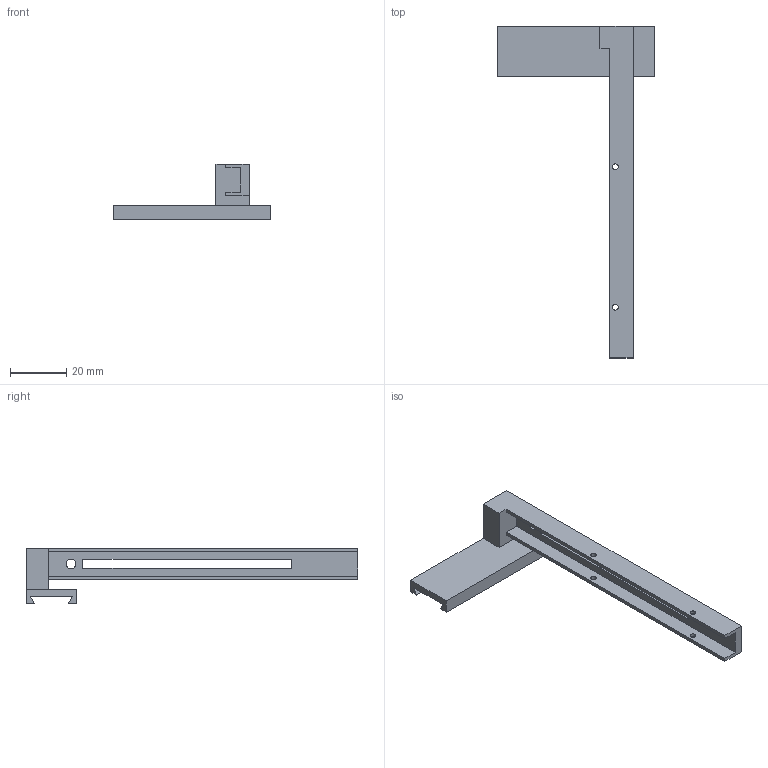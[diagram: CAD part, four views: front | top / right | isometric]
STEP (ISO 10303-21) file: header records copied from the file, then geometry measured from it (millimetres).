
FILE_DESCRIPTION(('Open CASCADE Model'),'2;1');
FILE_NAME('Open CASCADE Shape Model','2026-10-15T21:05:20',('Author'),( 'Open CASCADE'),'Open CASCADE STEP processor 7.9','Open CASCADE 7.9' ,'Unknown');
FILE_SCHEMA(('AUTOMOTIVE_DESIGN { 1 0 10303 214 1 1 1 1 }'));
Length unit declared in the file: millimetre
Products named in the file (1): Open CASCADE STEP translator 7.9 10
Bounding box: 56 x 118 x 19.9 mm (x, y, z)
Volume: 9114.2 mm3; surface area: 9255.3 mm2
Topology: 1 solids, 1 shells, 34 faces, 96 edges, 64 vertices
Faces by surface type: plane 27, cylinder 7
Full cylindrical faces by diameter (mm): 2 x4, 3.4 x1
Entity records: 2360 total; most frequent: CARTESIAN_POINT 529, DIRECTION 300, LINE 202, VECTOR 202, ORIENTED_EDGE 192, PCURVE 192, DEFINITIONAL_REPRESENTATION 192, EDGE_CURVE 96
